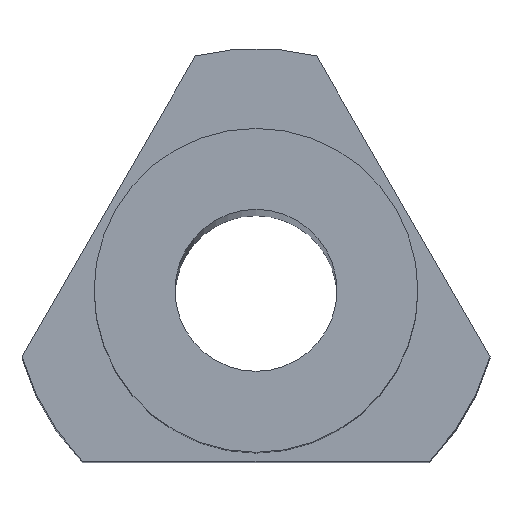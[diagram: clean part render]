
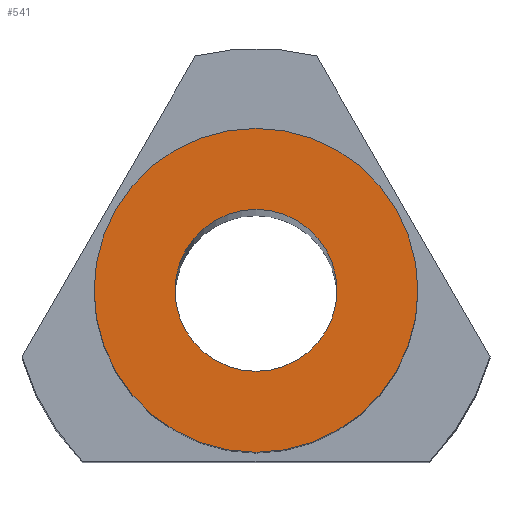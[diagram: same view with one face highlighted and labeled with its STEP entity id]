
A CAD part, top view. The second image highlights one B-rep face of the part: STEP entity #541.
In plain terms, the highlighted planar face has unit normal (0, 0, 1).
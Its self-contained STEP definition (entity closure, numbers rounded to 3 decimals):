
#463=CARTESIAN_POINT('',(2.0,0.,45.0));
#464=VERTEX_POINT('',#463);
#465=CARTESIAN_POINT('',(0.0,0.0,45.0));
#466=DIRECTION('',(0.0,0.0,1.0));
#467=DIRECTION('',(-1.0,0.0,0.0));
#468=AXIS2_PLACEMENT_3D('',#465,#466,#467);
#469=CIRCLE('',#468,2.0);
#470=EDGE_CURVE('',#464,#464,#469,.T.);
#503=CARTESIAN_POINT('',(1.0,0.,45.0));
#504=VERTEX_POINT('',#503);
#505=CARTESIAN_POINT('',(0.0,0.0,45.0));
#506=DIRECTION('',(0.0,0.0,-1.0));
#507=DIRECTION('',(-1.0,0.0,0.0));
#508=AXIS2_PLACEMENT_3D('',#505,#506,#507);
#509=CIRCLE('',#508,1.0);
#510=EDGE_CURVE('',#504,#504,#509,.T.);
#530=CARTESIAN_POINT('',(0.0,0.0,45.0));
#531=DIRECTION('',(0.0,0.0,-1.0));
#532=DIRECTION('',(-1.0,0.0,0.0));
#533=AXIS2_PLACEMENT_3D('',#530,#531,#532);
#534=PLANE('',#533);
#535=ORIENTED_EDGE('',*,*,#470,.T.);
#536=EDGE_LOOP('',(#535));
#537=FACE_OUTER_BOUND('',#536,.T.);
#538=ORIENTED_EDGE('',*,*,#510,.T.);
#539=EDGE_LOOP('',(#538));
#540=FACE_BOUND('',#539,.T.);
#541=ADVANCED_FACE('',(#537,#540),#534,.F.);
